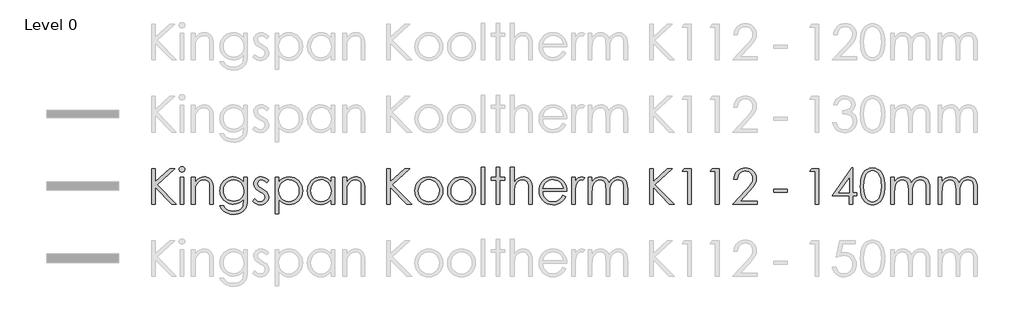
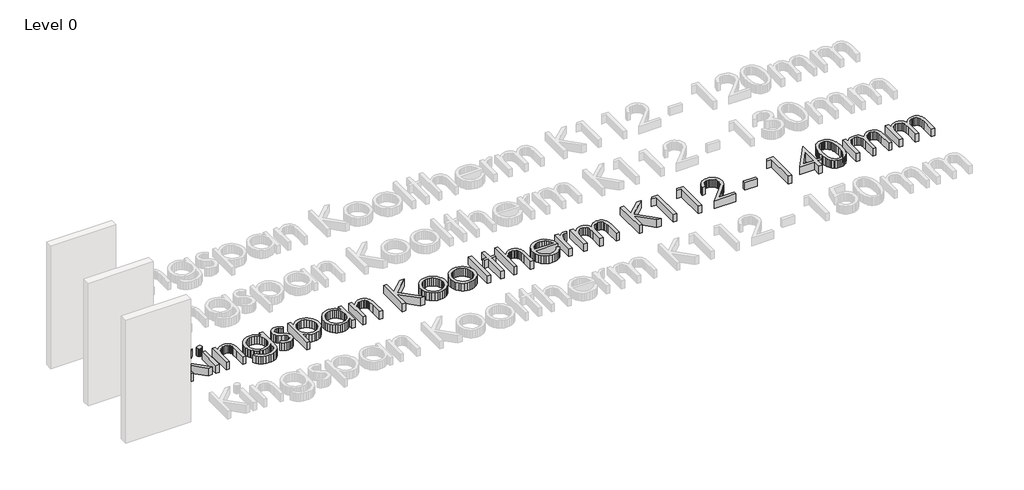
# One storey, part 2 of 14: 1 proxy.
"""IFC4 building model written with IfcOpenShell, lengths in millimetres."""

from ifc_helpers import new_model, si_unit, origin, origin_with_axes, place, context, project, spatial, polyline, outline, extrude, element, save

model = new_model("IFC4")

# Units and contexts
model_context = context("Model", 3, world=origin())
ifc_project = project(units=[si_unit("LENGTHUNIT", "METRE", prefix="MILLI")], contexts=[model_context])

# Site, building, storey
site = spatial("IfcSite", under=ifc_project)
building = spatial("IfcBuilding", under=site)
storey = spatial("IfcBuildingStorey", under=building, Name="Level 0", Elevation=0.0)

# Proxy
placement = place(None, origin())
element("IfcBuildingElementProxy", 1, Name="600mm KI_CenturyGothic", ObjectType="600mm KI_CenturyGothic", at=placement, inside=storey, context=model_context, shape_type="SweptSolid", body=[
    extrude(outline(polyline([(-3852.2663848, -8499.1034017), (-3792.944575, -8499.1034017), (-3792.944575, -8718.316027), (-3555.1938841, -8499.1034017), (-3471.6181051, -8499.1034017), (-3760.9664119, -8766.0515459), (-3441.9572002, -9092.3214999), (-3520.8984627, -9092.3214999), (-3792.944575, -8814.0960325), (-3792.944575, -9092.3214999), (-3852.2663848, -9092.3214999), (-3852.2663848, -8499.1034017)])), origin_with_axes(), (0.0, 0.0, 1.0), 150.0),
    extrude(outline(polyline([(-3348.1854852, -8469.4424967), (-3329.145347, -8472.7252792), (-3313.1176445, -8482.5736265), (-3302.226531, -8497.0178693), (-3298.5961598, -8514.088338), (-3302.226531, -8530.9270809), (-3313.1176445, -8545.2940817), (-3329.145347, -8555.142429), (-3348.1854852, -8558.4252115), (-3366.9938975, -8555.142429), (-3382.9443581, -8545.2940817), (-3393.8354717, -8530.9270809), (-3397.4658428, -8514.088338), (-3393.8354717, -8497.0178693), (-3382.9443581, -8482.5736265), (-3366.9938975, -8472.7252792), (-3348.1854852, -8469.4424967)])), origin_with_axes(), (0.0, 0.0, 1.0), 150.0),
    extrude(outline(polyline([(-3377.6919062, -8647.4079262), (-3318.3700964, -8647.4079262), (-3318.3700964, -9092.3214999), (-3377.6919062, -9092.3214999), (-3377.6919062, -8647.4079262)])), origin_with_axes(), (0.0, 0.0, 1.0), 150.0),
    extrude(outline(polyline([(-3189.8395084, -8647.4079262), (-3130.5176986, -8647.4079262), (-3130.5176986, -8726.5036726), (-3096.9946967, -8686.9944204), (-3060.0730495, -8659.303185), (-3019.7141359, -8642.9665147), (-2975.879335, -8637.5209579), (-2953.4357238, -8639.0995901), (-2932.2955704, -8643.8354865), (-2912.4588747, -8651.7286472), (-2893.9256368, -8662.7790723), (-2877.212412, -8676.5039994), (-2862.835756, -8692.4206667), (-2841.0921499, -8730.8292213), (-2833.6238199, -8755.2087086), (-2828.2892984, -8785.5551357), (-2824.0216812, -8864.1488095), (-2824.0216812, -9092.3214999), (-2883.343491, -9092.3214999), (-2883.343491, -8879.1337458), (-2883.343491, -8776.092998), (-2884.7290183, -8755.2956057), (-2889.8125035, -8737.2403023), (-2898.2849788, -8721.9270877), (-2910.1464442, -8709.355962), (-2924.7403432, -8699.5558909), (-2941.4101193, -8692.5558401), (-2980.977303, -8686.9557994), (-3005.3471351, -8689.1137461), (-3028.4038541, -8695.5875862), (-3050.1474602, -8706.3773197), (-3070.5779533, -8721.4829466), (-3088.6622225, -8739.7651482), (-3103.3671568, -8760.084606), (-3114.6927562, -8782.44132), (-3122.6390208, -8806.8352901), (-3128.5480292, -8853.9142525), (-3130.5176986, -8928.4141035), (-3130.5176986, -9092.3214999), (-3189.8395084, -9092.3214999), (-3189.8395084, -8647.4079262)])), origin_with_axes(), (0.0, 0.0, 1.0), 150.0),
    extrude(outline(polyline([(-2319.7862977, -8647.4079262), (-2260.4644879, -8647.4079262), (-2260.4644879, -8998.395301), (-2264.5196897, -9078.6496765), (-2269.588692, -9109.4499001), (-2276.6852953, -9134.0321474), (-2289.9371156, -9162.6454585), (-2307.2924139, -9187.7732271), (-2328.7511904, -9209.4154531), (-2354.3134448, -9227.5721366), (-2383.3226209, -9241.9343098), (-2415.122162, -9252.1930049), (-2449.7120682, -9258.348222), (-2487.0923395, -9260.3999611), (-2541.0458345, -9256.3833802), (-2589.206184, -9244.3336376), (-2630.260275, -9225.5059147), (-2662.8949946, -9201.1553932), (-2690.2000204, -9167.8061856), (-2715.2650299, -9121.9824048), (-2655.94322, -9121.9824048), (-2642.4355358, -9143.151524), (-2627.0933555, -9161.3951046), (-2609.9166791, -9176.7131468), (-2590.9055067, -9189.1056506), (-2569.7894914, -9198.6691682), (-2546.2982864, -9205.5002523), (-2492.1903075, -9210.9651195), (-2438.5071593, -9205.6354257), (-2415.083541, -9198.9733084), (-2393.93856, -9189.6463441), (-2359.6624492, -9165.6047903), (-2336.8567664, -9136.1176798), (-2329.3884364, -9117.4782342), (-2324.0539149, -9093.7697863), (-2319.7862977, -9031.1458835), (-2319.7862977, -9008.4367532), (-2354.757586, -9044.2190818), (-2396.6420279, -9070.6165148), (-2443.392712, -9086.8952536), (-2492.9627269, -9092.3214999), (-2522.4063889, -9090.4242447), (-2550.9521133, -9084.7324793), (-2578.5999001, -9075.2462036), (-2605.3497494, -9061.9654175), (-2630.1540674, -9045.4742634), (-2651.9652601, -9026.3568832), (-2670.7833277, -9004.6132772), (-2686.6082702, -8980.2434451), (-2699.1456025, -8953.9280817), (-2708.1008399, -8926.3478816), (-2713.4739824, -8897.5028447), (-2715.2650299, -8867.392971), (-2713.3967404, -8837.1044753), (-2707.7918722, -8807.8780563), (-2698.4504251, -8779.713714), (-2685.3723991, -8752.6114483), (-2668.9971079, -8727.4257483), (-2649.7638648, -8705.0111029), (-2627.67267, -8685.367512), (-2602.7235235, -8668.4949758), (-2575.9833294, -8654.943843), (-2548.5189922, -8645.2644624), (-2520.3305117, -8639.456834), (-2491.4178881, -8637.5209579), (-2444.5320306, -8642.4644421), (-2400.8903346, -8657.2948945), (-2359.6045177, -8683.8661218), (-2319.7862977, -8724.0319306), (-2319.7862977, -8647.4079262)]), holes=[polyline([(-2484.1571458, -8686.9557994), (-2529.0154023, -8692.9806707), (-2570.5908765, -8711.0552847), (-2606.2187212, -8739.7699758), (-2633.2340897, -8777.7150788), (-2650.2659375, -8821.9940208), (-2655.94322, -8869.7102292), (-2653.0080263, -8905.6229036), (-2644.2024452, -8938.2817613), (-2629.5264766, -8967.6868023), (-2608.9801206, -8993.8380266), (-2583.7606272, -9015.296803), (-2555.0652466, -9030.6245004), (-2522.8939786, -9039.8211189), (-2487.2468234, -9042.8866584), (-2451.3244937, -9039.845257), (-2419.1001219, -9030.7210528), (-2390.573708, -9015.5140459), (-2365.7452519, -8994.2242363), (-2345.6382095, -8967.9812872), (-2331.2760363, -8937.9148621), (-2322.6587323, -8904.024961), (-2319.7862977, -8866.3115838), (-2325.0773706, -8817.6105407), (-2340.9505892, -8774.3936754), (-2366.4983608, -8738.1672056), (-2400.8130926, -8710.4373492), (-2440.9982119, -8692.8261869), (-2484.1571458, -8686.9557994)])]), origin_with_axes(), (0.0, 0.0, 1.0), 150.0),
    extrude(outline(polyline([(-1904.5336289, -8698.6965743), (-1940.9918246, -8736.390641), (-1962.9575012, -8714.7628978), (-1984.6721416, -8699.3145098), (-2006.1357456, -8690.045477), (-2027.3483133, -8686.9557994), (-2052.181597, -8691.6289368), (-2073.2300256, -8705.6483489), (-2087.5970264, -8725.8857371), (-2092.3860267, -8749.212803), (-2088.4466878, -8770.7633042), (-2076.628671, -8791.2324183), (-2052.0657341, -8813.400855), (-2010.2006027, -8839.122421), (-1958.3326401, -8871.9888664), (-1939.8428507, -8887.8138088), (-1926.315856, -8903.2332311), (-1909.9791857, -8935.9065716), (-1904.5336289, -8972.4420092), (-1906.9474396, -8998.5884059), (-1914.1888714, -9022.6492701), (-1926.2579245, -9044.624602), (-1943.1545989, -9064.5144015), (-1963.6719892, -9081.0055557), (-1986.6031901, -9092.7849515), (-2011.9482016, -9099.852589), (-2039.7070237, -9102.2084682), (-2077.4397114, -9098.3270607), (-2113.3958344, -9086.6828383), (-2145.4512394, -9068.2027042), (-2171.4817731, -9043.8135617), (-2135.7959969, -9003.3387852), (-2114.0041146, -9024.9665283), (-2091.5749863, -9040.4149163), (-2068.5086121, -9049.6839491), (-2044.8049918, -9052.7736267), (-2013.637869, -9047.1349651), (-1987.4914724, -9030.2189802), (-1969.7644472, -9005.6560434), (-1963.8554388, -8977.0765256), (-1967.7561567, -8953.2860081), (-1979.4583106, -8932.2762005), (-2005.0253927, -8910.5712154), (-2050.2119275, -8883.7682622), (-2099.762632, -8853.1032121), (-2117.441381, -8837.9444814), (-2130.3890611, -8822.9016136), (-2146.3781427, -8790.7689666), (-2151.7078365, -8754.310771), (-2149.5305794, -8730.2643896), (-2142.9988078, -8708.3325063), (-2132.1125219, -8688.5151211), (-2116.8717217, -8670.812234), (-2098.309518, -8656.2473007), (-2077.4590218, -8645.8437769), (-2054.3202332, -8639.6016627), (-2028.8931521, -8637.5209579), (-1997.9481, -8641.3444339), (-1966.9064954, -8652.814862), (-1935.7683384, -8671.9322421), (-1904.5336289, -8698.6965743)])), origin_with_axes(), (0.0, 0.0, 1.0), 150.0),
    extrude(outline(polyline([(-1795.7769776, -8647.4079262), (-1736.4551678, -8647.4079262), (-1736.4551678, -8728.5119631), (-1700.9238754, -8688.2689124), (-1660.4490989, -8659.9211205), (-1614.9922173, -8643.1209986), (-1564.5146096, -8637.5209579), (-1520.0618732, -8641.7596094), (-1478.9305402, -8654.4755637), (-1441.1206107, -8675.668821), (-1406.6320845, -8705.3393811), (-1377.9077381, -8740.9768811), (-1357.3903478, -8780.070958), (-1345.0799137, -8822.6216116), (-1340.9764356, -8868.628842), (-1345.0412927, -8915.5291824), (-1357.235864, -8958.7508754), (-1377.5601494, -8998.293921), (-1406.014149, -9034.1583192), (-1440.2130179, -9063.9302594), (-1477.7719111, -9085.1959309), (-1518.6908288, -9097.9553339), (-1562.9697708, -9102.2084682), (-1612.6170277, -9096.743601), (-1658.0545988, -9080.3489992), (-1699.3211052, -9053.1019049), (-1736.4551678, -9015.07956), (-1736.4551678, -9250.5129928), (-1795.7769776, -9250.5129928), (-1795.7769776, -8647.4079262)]), holes=[polyline([(-1568.5311905, -8686.9557994), (-1602.5852307, -8690.2530647), (-1633.8392507, -8700.1448607), (-1662.2932503, -8716.6311872), (-1687.9472295, -8739.7120444), (-1709.1694525, -8767.6977647), (-1724.3281832, -8798.8986808), (-1733.4234216, -8833.3147926), (-1736.4551678, -8870.9461002), (-1731.048232, -8919.8016272), (-1714.8274246, -8963.4819442), (-1688.5265441, -9000.3263495), (-1652.8793888, -9028.6741414), (-1611.4390881, -9046.7487554), (-1567.7587711, -9052.7736267), (-1525.0632888, -9046.7101344), (-1485.0326535, -9028.5196576), (-1450.2544701, -8999.4187567), (-1423.3163435, -8960.6239924), (-1406.05277, -8915.9588407), (-1400.2982454, -8869.2467775), (-1405.9948385, -8822.3029886), (-1423.0846177, -8777.8695627), (-1449.8103289, -8739.5189395), (-1484.414718, -8710.8235589), (-1524.7157001, -8692.9227393), (-1568.5311905, -8686.9557994)])]), origin_with_axes(), (0.0, 0.0, 1.0), 150.0),
    extrude(outline(polyline([(-807.0801472, -8647.4079262), (-807.0801472, -9092.3214999), (-866.401957, -9092.3214999), (-866.401957, -9016.4699149), (-903.4780882, -9054.3184655), (-944.8797679, -9081.0441767), (-990.4525125, -9096.9173953), (-1040.0418379, -9102.2084682), (-1084.3159523, -9097.9553339), (-1125.2203871, -9085.1959309), (-1162.7551422, -9063.9302594), (-1196.9202178, -9034.1583192), (-1225.340424, -8998.293921), (-1245.6405713, -8958.7508754), (-1257.8206597, -8915.5291824), (-1261.8806892, -8868.628842), (-1257.7820388, -8822.6216116), (-1245.4860875, -8780.070958), (-1224.9928353, -8740.9768811), (-1196.3022822, -8705.3393811), (-1161.8475494, -8675.668821), (-1124.061758, -8654.4755637), (-1082.9449079, -8641.7596094), (-1038.4969991, -8637.5209579), (-987.7490446, -8643.1209986), (-942.0990581, -8659.9211205), (-921.2051134, -8672.6081091), (-901.6242816, -8688.2689124), (-866.401957, -8728.5119631), (-866.401957, -8647.4079262), (-807.0801472, -8647.4079262)]), holes=[polyline([(-1034.3259343, -8686.9557994), (-1078.1414247, -8692.9227393), (-1118.4424068, -8710.8235589), (-1153.0467959, -8739.5189395), (-1179.7725071, -8777.8695627), (-1196.8622863, -8822.3029886), (-1202.5588794, -8869.2467775), (-1196.8043548, -8915.9588407), (-1179.5407813, -8960.6239924), (-1152.6026548, -8999.4187567), (-1117.8244713, -9028.5196576), (-1077.6779731, -9046.7101344), (-1034.6349021, -9052.7736267), (-991.0125165, -9046.7487554), (-949.7460102, -9028.6741414), (-914.2726493, -9000.3263495), (-888.0297002, -8963.4819442), (-871.8088928, -8919.8016272), (-866.401957, -8870.9461002), (-869.4337032, -8833.3147926), (-878.5289416, -8798.8986808), (-893.6876723, -8767.6977647), (-914.9098953, -8739.7120444), (-940.5638746, -8716.6311872), (-969.0178742, -8700.1448607), (-1000.2718941, -8690.2530647), (-1034.3259343, -8686.9557994)])]), origin_with_axes(), (0.0, 0.0, 1.0), 150.0),
    extrude(outline(polyline([(-668.662591, -8647.4079262), (-609.3407811, -8647.4079262), (-609.3407811, -8726.5036726), (-575.8177792, -8686.9944204), (-538.896132, -8659.303185), (-498.5372184, -8642.9665147), (-454.7024175, -8637.5209579), (-432.2588064, -8639.0995901), (-411.1186529, -8643.8354865), (-391.2819572, -8651.7286472), (-372.7487193, -8662.7790723), (-356.0354946, -8676.5039994), (-341.6588385, -8692.4206667), (-319.9152324, -8730.8292213), (-312.4469024, -8755.2087086), (-307.1123809, -8785.5551357), (-302.8447637, -8864.1488095), (-302.8447637, -9092.3214999), (-362.1665735, -9092.3214999), (-362.1665735, -8879.1337458), (-362.1665735, -8776.092998), (-363.5521008, -8755.2956057), (-368.635586, -8737.2403023), (-377.1080613, -8721.9270877), (-388.9695267, -8709.355962), (-403.5634257, -8699.5558909), (-420.2332018, -8692.5558401), (-459.8003855, -8686.9557994), (-484.1702176, -8689.1137461), (-507.2269366, -8695.5875862), (-528.9705427, -8706.3773197), (-549.4010358, -8721.4829466), (-567.485305, -8739.7651482), (-582.1902393, -8760.084606), (-593.5158387, -8782.44132), (-601.4621033, -8806.8352901), (-607.3711117, -8853.9142525), (-609.3407811, -8928.4141035), (-609.3407811, -9092.3214999), (-668.662591, -9092.3214999), (-668.662591, -8647.4079262)])), origin_with_axes(), (0.0, 0.0, 1.0), 150.0),
    extrude(outline(polyline([(62.9730635, -8499.1034017), (122.2948734, -8499.1034017), (122.2948734, -8718.316027), (360.0455643, -8499.1034017), (443.6213432, -8499.1034017), (154.2730365, -8766.0515459), (473.2822481, -9092.3214999), (394.3409856, -9092.3214999), (122.2948734, -8814.0960325), (122.2948734, -9092.3214999), (62.9730635, -9092.3214999), (62.9730635, -8499.1034017)])), origin_with_axes(), (0.0, 0.0, 1.0), 150.0),
    extrude(outline(polyline([(760.1588128, -8637.5209579), (809.4681362, -8642.1458191), (854.3553585, -8656.0204025), (894.8204798, -8679.1447083), (930.8635, -8711.5187363), (957.7630055, -8746.7507161), (976.9769381, -8785.091684), (988.5052976, -8826.54164), (992.3480841, -8871.1005841), (988.283227, -8915.9153921), (976.0886558, -8957.8239721), (955.7643703, -8996.8263241), (927.3103707, -9032.9224481), (892.4742558, -9063.2350819), (853.0036246, -9084.8869632), (808.8984769, -9097.8780919), (760.1588128, -9102.2084682), (711.2839754, -9097.8780919), (667.0822753, -9084.8869632), (627.5537126, -9063.2350819), (592.6982872, -9032.9224481), (564.2442876, -8996.8263241), (543.9200022, -8957.8239721), (531.7254309, -8915.9153921), (527.6605738, -8871.1005841), (531.5033603, -8826.7347449), (543.0317198, -8785.4006518), (562.2456524, -8747.0983049), (589.145158, -8711.8277041), (625.2074886, -8679.3185026), (665.7305413, -8656.0976445), (710.7143161, -8642.1651295), (760.1588128, -8637.5209579)]), holes=[polyline([(760.004329, -8686.9557994), (725.7282181, -8690.3303067), (693.9624704, -8700.4538284), (664.7070856, -8717.3263647), (637.962064, -8740.9479154), (615.6584538, -8769.3584664), (599.7273037, -8800.5980035), (590.1686137, -8834.6665266), (586.9823836, -8871.5640357), (592.7948396, -8919.2995546), (610.2322075, -8963.6364281), (637.5758543, -9001.4270471), (673.1071466, -9029.5238028), (714.6439998, -9046.9611707), (760.004329, -9052.7736267), (805.3646581, -9046.9611707), (846.9015113, -9029.5238028), (882.4328037, -9001.4270471), (909.7764504, -8963.6364281), (927.2138183, -8919.2995546), (933.0262743, -8871.5640357), (929.8255614, -8834.6665266), (920.2234227, -8800.5980035), (904.2198583, -8769.3584664), (881.8148681, -8740.9479154), (854.9974321, -8717.3263647), (825.7565303, -8700.4538284), (794.0921625, -8690.3303067), (760.004329, -8686.9557994)])]), origin_with_axes(), (0.0, 0.0, 1.0), 150.0),
    extrude(outline(polyline([(1303.9420695, -8637.5209579), (1353.2513929, -8642.1458191), (1398.1386152, -8656.0204025), (1438.6037365, -8679.1447083), (1474.6467567, -8711.5187363), (1501.5462622, -8746.7507161), (1520.7601948, -8785.091684), (1532.2885543, -8826.54164), (1536.1313408, -8871.1005841), (1532.0664837, -8915.9153921), (1519.8719125, -8957.8239721), (1499.547627, -8996.8263241), (1471.0936274, -9032.9224481), (1436.2575126, -9063.2350819), (1396.7868813, -9084.8869632), (1352.6817336, -9097.8780919), (1303.9420695, -9102.2084682), (1255.0672321, -9097.8780919), (1210.865532, -9084.8869632), (1171.3369693, -9063.2350819), (1136.4815439, -9032.9224481), (1108.0275443, -8996.8263241), (1087.7032589, -8957.8239721), (1075.5086876, -8915.9153921), (1071.4438305, -8871.1005841), (1075.286617, -8826.7347449), (1086.8149766, -8785.4006518), (1106.0289091, -8747.0983049), (1132.9284147, -8711.8277041), (1168.9907453, -8679.3185026), (1209.5137981, -8656.0976445), (1254.4975728, -8642.1651295), (1303.9420695, -8637.5209579)]), holes=[polyline([(1303.7875857, -8686.9557994), (1269.5114748, -8690.3303067), (1237.7457271, -8700.4538284), (1208.4903423, -8717.3263647), (1181.7453207, -8740.9479154), (1159.4417105, -8769.3584664), (1143.5105604, -8800.5980035), (1133.9518704, -8834.6665266), (1130.7656404, -8871.5640357), (1136.5780963, -8919.2995546), (1154.0154643, -8963.6364281), (1181.359111, -9001.4270471), (1216.8904033, -9029.5238028), (1258.4272565, -9046.9611707), (1303.7875857, -9052.7736267), (1349.1479149, -9046.9611707), (1390.684768, -9029.5238028), (1426.2160604, -9001.4270471), (1453.5597071, -8963.6364281), (1470.997075, -8919.2995546), (1476.809531, -8871.5640357), (1473.6088181, -8834.6665266), (1464.0066795, -8800.5980035), (1448.003115, -8769.3584664), (1425.5981249, -8740.9479154), (1398.7806889, -8717.3263647), (1369.539787, -8700.4538284), (1337.8754193, -8690.3303067), (1303.7875857, -8686.9557994)])]), origin_with_axes(), (0.0, 0.0, 1.0), 150.0),
    extrude(outline(polyline([(1635.0010238, -8479.3294651), (1694.3228337, -8479.3294651), (1694.3228337, -9092.3214999), (1635.0010238, -9092.3214999), (1635.0010238, -8479.3294651)])), origin_with_axes(), (0.0, 0.0, 1.0), 150.0),
    extrude(outline(polyline([(1882.1752314, -8479.3294651), (1941.4970413, -8479.3294651), (1941.4970413, -8647.4079262), (2020.5927877, -8647.4079262), (2020.5927877, -8696.8427677), (1941.4970413, -8696.8427677), (1941.4970413, -9092.3214999), (1882.1752314, -9092.3214999), (1882.1752314, -8696.8427677), (1803.079485, -8696.8427677), (1803.079485, -8647.4079262), (1882.1752314, -8647.4079262), (1882.1752314, -8479.3294651)])), origin_with_axes(), (0.0, 0.0, 1.0), 150.0),
    extrude(outline(polyline([(2119.4624707, -8479.3294651), (2178.7842806, -8479.3294651), (2178.7842806, -8728.0485114), (2212.5583188, -8688.3461544), (2249.6151394, -8660.0756044), (2289.9161216, -8643.1596195), (2333.4226442, -8637.5209579), (2355.8662553, -8639.0995901), (2377.0064088, -8643.8354865), (2396.8431044, -8651.7286472), (2415.3763424, -8662.7790723), (2432.0895671, -8676.4895166), (2446.4662232, -8692.3627352), (2468.2098293, -8730.5974955), (2475.6781593, -8754.9045684), (2481.0126808, -8785.2654784), (2485.280298, -8864.1488095), (2485.280298, -9092.3214999), (2425.9584882, -9092.3214999), (2425.9584882, -8879.1337458), (2424.5681332, -8814.752589), (2420.3970685, -8776.092998), (2406.879729, -8737.2403023), (2397.1665551, -8721.9270877), (2385.4837117, -8709.355962), (2371.840854, -8699.5558909), (2356.2476374, -8692.5558401), (2319.2101273, -8686.9557994), (2296.3416854, -8689.1137461), (2274.6994594, -8695.5875862), (2254.2834492, -8706.3773197), (2235.0936547, -8721.4829466), (2218.1052556, -8739.7651482), (2204.2934312, -8760.084606), (2193.6581816, -8782.44132), (2186.1995068, -8806.8352901), (2180.6380871, -8853.6825267), (2178.7842806, -8928.4141035), (2178.7842806, -9092.3214999), (2119.4624707, -9092.3214999), (2119.4624707, -8479.3294651)])), origin_with_axes(), (0.0, 0.0, 1.0), 150.0),
    extrude(outline(polyline([(2991.0605203, -8944.0169753), (3038.950523, -8969.1978477), (3013.3255094, -9011.0822896), (2984.0315038, -9044.0452875), (2950.952643, -9069.1296074), (2913.9730643, -9087.3780157), (2872.4941426, -9098.5008551), (2825.9172528, -9102.2084682), (2774.4258447, -9097.7767119), (2728.8627554, -9084.481443), (2689.227985, -9062.3226615), (2655.5215335, -9031.3003674), (2628.6220279, -8994.6973431), (2609.4080954, -8955.7963712), (2597.8797358, -8914.5974515), (2594.0369493, -8871.1005841), (2597.3197318, -8830.2202874), (2607.1680791, -8791.618628), (2623.5819913, -8755.2956057), (2646.5614684, -8721.2512207), (2682.7493173, -8684.6192308), (2724.5758277, -8658.4535236), (2772.0409998, -8642.7540993), (2825.1448334, -8637.5209579), (2879.7935059, -8642.8892727), (2928.6490329, -8658.9942172), (2971.7114143, -8685.8357913), (3008.9806503, -8723.4139951), (3030.4539096, -8755.585263), (3045.9022976, -8791.541386), (3055.3258143, -8831.2823641), (3058.7244596, -8874.8081972), (2653.3587591, -8874.8081972), (2657.095338, -8912.0629503), (2666.6057518, -8945.8128504), (2681.8900007, -8976.0578975), (2702.9480845, -9002.7980916), (2728.3124066, -9024.6623882), (2756.5153699, -9040.2797429), (2787.5569744, -9049.6501557), (2821.4372203, -9052.7736267), (2854.9602222, -9049.761191), (2887.5563208, -9040.7238841), (2917.2944677, -9026.6851615), (2942.2436143, -9008.668479), (2965.725164, -8982.5027719), (2991.0605203, -8944.0169753)]), holes=[polyline([(2999.4026498, -8825.3733557), (2984.9777175, -8782.8516678), (2965.1844704, -8749.8307385), (2939.0766947, -8724.3022774), (2905.7081767, -8704.257994), (2867.7630738, -8691.2813481), (2827.9255433, -8686.9557994), (2795.503239, -8689.6689226), (2765.4368139, -8697.808292), (2737.726268, -8711.3739077), (2712.3716012, -8730.3657696), (2695.8321708, -8748.179692), (2681.4362043, -8769.9522638), (2669.1837016, -8795.683485), (2659.0746627, -8825.3733557), (2999.4026498, -8825.3733557)])]), origin_with_axes(), (0.0, 0.0, 1.0), 150.0),
    extrude(outline(polyline([(3137.820206, -8647.4079262), (3197.1420159, -8647.4079262), (3197.1420159, -8711.8277041), (3222.6897875, -8678.7874643), (3249.589293, -8655.6728138), (3277.7632906, -8642.0589219), (3307.1345382, -8637.5209579), (3330.4616041, -8641.305813), (3355.3335087, -8652.6603781), (3325.8270877, -8694.6799934), (3297.2475699, -8686.9557994), (3270.8308265, -8692.9034288), (3245.3409863, -8710.7463169), (3223.2884125, -8741.1023993), (3207.183468, -8784.5896114), (3199.6523789, -8842.7141712), (3197.1420159, -8940.1548783), (3197.1420159, -9092.3214999), (3137.820206, -9092.3214999), (3137.820206, -8647.4079262)])), origin_with_axes(), (0.0, 0.0, 1.0), 150.0),
    extrude(outline(polyline([(3414.6553185, -8647.4079262), (3473.9771284, -8647.4079262), (3473.9771284, -8723.5684789), (3503.5607913, -8687.0716623), (3533.9168737, -8661.9294109), (3577.3268439, -8643.6230712), (3622.8995884, -8637.5209579), (3653.7384329, -8640.668567), (3682.9165757, -8650.1113941), (3708.6767627, -8664.7873627), (3729.2617397, -8683.634396), (3746.0425511, -8709.0663047), (3760.3902414, -8743.4968994), (3775.16759, -8719.0981017), (3791.6925376, -8697.808292), (3809.965084, -8679.6274704), (3829.9852293, -8664.5556369), (3851.2798666, -8652.7279648), (3873.375889, -8644.2796277), (3896.2732965, -8639.2106253), (3919.9720892, -8637.5209579), (3962.3006723, -8643.3334139), (3981.4952943, -8650.5989839), (3999.3768034, -8660.7707818), (4015.4914031, -8673.53984), (4029.385297, -8688.5971907), (4050.5109676, -8725.5767694), (4057.8103309, -8748.9521114), (4063.0241619, -8777.5219739), (4067.1952266, -8850.2452603), (4067.1952266, -9092.3214999), (4007.8734168, -9092.3214999), (4007.8734168, -8846.6921311), (4005.4209852, -8785.5744462), (3998.0636904, -8747.1272706), (3984.7587663, -8722.6608861), (3964.4634466, -8703.4855746), (3938.3942919, -8691.0882432), (3907.7678627, -8686.9557994), (3888.1194443, -8688.5054659), (3869.3399976, -8693.1544651), (3834.3880198, -8711.7504621), (3805.6540182, -8740.6968791), (3785.8800816, -8777.9468046), (3779.1889985, -8802.1042213), (3774.4096535, -8833.1747916), (3770.5861775, -8916.0553931), (3770.5861775, -9092.3214999), (3711.2643677, -9092.3214999), (3711.2643677, -8861.9860352), (3708.850557, -8793.530366), (3701.6091252, -8751.2983353), (3688.3621325, -8725.0553863), (3667.9316394, -8704.5669617), (3641.6114484, -8691.35859), (3610.6953619, -8686.9557994), (3573.7544042, -8692.9999812), (3539.2465676, -8711.1325266), (3510.2808401, -8739.499629), (3489.9662099, -8776.2474819), (3477.9743988, -8828.0768236), (3473.9771284, -8901.6883923), (3473.9771284, -9092.3214999), (3414.6553185, -9092.3214999), (3414.6553185, -8647.4079262)])), origin_with_axes(), (0.0, 0.0, 1.0), 150.0),
    extrude(outline(polyline([(4433.0130538, -8499.1034017), (4492.3348637, -8499.1034017), (4492.3348637, -8718.316027), (4730.0855546, -8499.1034017), (4813.6613335, -8499.1034017), (4524.3130268, -8766.0515459), (4843.3222385, -9092.3214999), (4764.3809759, -9092.3214999), (4492.3348637, -8814.0960325), (4492.3348637, -9092.3214999), (4433.0130538, -9092.3214999), (4433.0130538, -8499.1034017)])), origin_with_axes(), (0.0, 0.0, 1.0), 150.0),
    extrude(outline(polyline([(5010.6282802, -8499.1034017), (5125.1008351, -8499.1034017), (5125.1008351, -9092.3214999), (5065.7790253, -9092.3214999), (5065.7790253, -8548.5382432), (4976.7963106, -8548.5382432), (5010.6282802, -8499.1034017)])), origin_with_axes(), (0.0, 0.0, 1.0), 150.0),
    extrude(outline(polyline([(5475.3157905, -8499.1034017), (5589.7883454, -8499.1034017), (5589.7883454, -9092.3214999), (5530.4665356, -9092.3214999), (5530.4665356, -8548.5382432), (5441.4838208, -8548.5382432), (5475.3157905, -8499.1034017)])), origin_with_axes(), (0.0, 0.0, 1.0), 150.0),
    extrude(outline(polyline([(5896.2843628, -8677.0688311), (5836.962553, -8677.0688311), (5841.4474131, -8637.8106152), (5852.5847353, -8602.2213914), (5870.3745196, -8570.3011597), (5894.816766, -8542.0499202), (5924.2121517, -8518.9352697), (5956.8613542, -8502.4248051), (5992.7643733, -8492.5185263), (6031.9212092, -8489.2164334), (6070.3925229, -8492.5136987), (6105.0113948, -8502.4054946), (6135.777825, -8518.8918211), (6162.6918135, -8541.9726783), (6184.5561101, -8569.533568), (6200.1734648, -8599.459992), (6209.5438776, -8631.7519505), (6212.6673485, -8666.4094434), (6206.5845458, -8715.2070389), (6188.3361375, -8760.8763359), (6152.5538088, -8812.763609), (6093.869245, -8880.215133), (5941.084688, -9042.8866584), (6222.5543169, -9042.8866584), (6222.5543169, -9092.3214999), (5817.1886164, -9092.3214999), (6043.1985325, -8851.6356152), (6099.9327373, -8786.1151397), (6132.6446988, -8740.0210121), (6148.1703288, -8702.6552237), (6153.3455387, -8663.3197658), (6151.0958672, -8638.7133804), (6144.3468527, -8615.8739043), (6133.0984952, -8594.8013375), (6117.3507947, -8575.4956802), (6098.3396223, -8559.3762529), (6077.3008489, -8547.8623762), (6054.2344746, -8540.9540502), (6029.1404994, -8538.6512749), (6002.8058255, -8540.9250845), (5978.7980651, -8547.7465133), (5957.1172181, -8559.1155613), (5937.7632845, -8575.0322286), (5921.5279943, -8595.0523738), (5909.2030773, -8618.731856), (5900.7885334, -8646.0706751), (5896.2843628, -8677.0688311)])), origin_with_axes(), (0.0, 0.0, 1.0), 150.0),
    extrude(outline(polyline([(6499.3894294, -8845.1472923), (6726.7897004, -8845.1472923), (6726.7897004, -8894.5821338), (6499.3894294, -8894.5821338), (6499.3894294, -8845.1472923)])), origin_with_axes(), (0.0, 0.0, 1.0), 150.0),
    extrude(outline(polyline([(7136.3264656, -8499.1034017), (7250.7990205, -8499.1034017), (7250.7990205, -9092.3214999), (7191.4772106, -9092.3214999), (7191.4772106, -8548.5382432), (7102.4944959, -8548.5382432), (7136.3264656, -8499.1034017)])), origin_with_axes(), (0.0, 0.0, 1.0), 150.0),
    extrude(outline(polyline([(7802.3064712, -8489.2164334), (7814.3562138, -8489.2164334), (7814.3562138, -8904.4691021), (7883.5649919, -8904.4691021), (7883.5649919, -8953.9039436), (7814.3562138, -8953.9039436), (7814.3562138, -9092.3214999), (7755.034404, -9092.3214999), (7755.034404, -8953.9039436), (7478.1992914, -8953.9039436), (7802.3064712, -8489.2164334)]), holes=[polyline([(7755.034404, -8904.4691021), (7755.034404, -8657.2948945), (7582.784878, -8904.4691021), (7755.034404, -8904.4691021)])]), origin_with_axes(), (0.0, 0.0, 1.0), 150.0),
    extrude(outline(polyline([(7942.8868017, -8795.8669347), (7944.4654339, -8741.4355052), (7949.2013303, -8693.5406748), (7957.094491, -8652.1824436), (7968.1449161, -8617.3608116), (7982.0726034, -8587.7192172), (7998.5975509, -8561.9010988), (8017.7197586, -8539.9064564), (8039.4392266, -8521.73529), (8063.1331916, -8507.5082902), (8088.1788906, -8497.3461475), (8114.5763236, -8491.2488619), (8142.3254905, -8489.2164334), (8170.5284538, -8491.2633448), (8197.3603726, -8497.404079), (8222.8212471, -8507.638636), (8246.9110771, -8521.9670159), (8269.0939967, -8540.3843909), (8288.8341399, -8562.8859335), (8306.1315069, -8589.4716437), (8320.9860974, -8620.1415214), (8332.9151495, -8655.6583309), (8341.435901, -8696.7848363), (8346.5483519, -8743.5210375), (8348.2525022, -8795.8669347), (8346.57249, -8848.0535203), (8341.5324534, -8894.6207548), (8333.1323925, -8935.5686382), (8321.3723071, -8970.8971704), (8306.6625452, -9001.4222195), (8289.4134545, -9027.9596535), (8269.625035, -9050.5094723), (8247.2972868, -9069.071676), (8223.03849, -9083.5690226), (8197.4569251, -9093.9242701), (8170.5525919, -9100.1374187), (8142.3254905, -9102.2084682), (8114.6004617, -9100.2001778), (8088.2754431, -9094.1753064), (8063.3504346, -9084.1338543), (8039.8254363, -9070.0758212), (8018.2507969, -9052.0398282), (7999.1768654, -9030.0644964), (7982.6036417, -9004.1498255), (7968.5311258, -8974.2958158), (7957.311734, -8939.2762513), (7949.2978827, -8897.8649163), (7944.489572, -8850.0618107), (7942.8868017, -8795.8669347)]), holes=[polyline([(8002.2086116, -8795.7124508), (8006.5920916, -8884.038609), (8012.0714418, -8919.0195525), (8019.7425319, -8947.8790723), (8029.5570859, -8972.1185586), (8041.4668275, -8993.2394015), (8055.4717567, -9011.2416011), (8071.5718736, -9026.1251574), (8106.8714401, -9046.1115094), (8125.2743323, -9051.1080973), (8144.179297, -9052.7736267), (8163.171159, -9051.1418907), (8181.525775, -9046.2466828), (8216.3232689, -9026.665851), (8232.0806246, -9011.9898824), (8245.8296899, -8994.0697524), (8257.5704648, -8972.9054608), (8267.3029492, -8948.4970078), (8276.7650868, -8915.1381451), (8283.5237566, -8878.5544313), (8288.9306924, -8795.7124508), (8284.1030711, -8714.1063413), (8278.0685446, -8679.4150551), (8269.6202074, -8648.7982811), (8259.0380616, -8622.135329), (8246.6021093, -8599.3055082), (8232.3123504, -8580.3088186), (8216.168785, -8565.1452603), (8181.1009443, -8545.2747712), (8162.8718465, -8540.307149), (8144.179297, -8538.6512749), (8125.163297, -8540.307149), (8106.7362667, -8545.2747712), (8071.6491155, -8565.1452603), (8055.7034825, -8579.9564022), (8041.7757953, -8597.8958428), (8029.8660536, -8618.9635819), (8019.9742577, -8643.1596195), (8012.2017875, -8672.0143117), (8006.6500231, -8707.0580143), (8002.2086116, -8795.7124508)])]), origin_with_axes(), (0.0, 0.0, 1.0), 150.0),
    extrude(outline(polyline([(8447.1221852, -8647.4079262), (8506.4439951, -8647.4079262), (8506.4439951, -8723.5684789), (8536.027658, -8687.0716623), (8566.3837404, -8661.9294109), (8609.7937106, -8643.6230712), (8655.3664551, -8637.5209579), (8686.2052996, -8640.668567), (8715.3834424, -8650.1113941), (8741.1436294, -8664.7873627), (8761.7286063, -8683.634396), (8778.5094178, -8709.0663047), (8792.8571081, -8743.4968994), (8807.6344567, -8719.0981017), (8824.1594042, -8697.808292), (8842.4319506, -8679.6274704), (8862.4520959, -8664.5556369), (8883.7467332, -8652.7279648), (8905.8427557, -8644.2796277), (8928.7401632, -8639.2106253), (8952.4389559, -8637.5209579), (8994.7675389, -8643.3334139), (9013.962161, -8650.5989839), (9031.8436701, -8660.7707818), (9047.9582698, -8673.53984), (9061.8521637, -8688.5971907), (9082.9778343, -8725.5767694), (9090.2771976, -8748.9521114), (9095.4910285, -8777.5219739), (9099.6620933, -8850.2452603), (9099.6620933, -9092.3214999), (9040.3402835, -9092.3214999), (9040.3402835, -8846.6921311), (9037.8878519, -8785.5744462), (9030.5305571, -8747.1272706), (9017.225633, -8722.6608861), (8996.9303133, -8703.4855746), (8970.8611585, -8691.0882432), (8940.2347294, -8686.9557994), (8920.5863109, -8688.5054659), (8901.8068643, -8693.1544651), (8866.8548865, -8711.7504621), (8838.1208849, -8740.6968791), (8818.3469483, -8777.9468046), (8811.6558652, -8802.1042213), (8806.8765202, -8833.1747916), (8803.0530442, -8916.0553931), (8803.0530442, -9092.3214999), (8743.7312343, -9092.3214999), (8743.7312343, -8861.9860352), (8741.3174237, -8793.530366), (8734.0759919, -8751.2983353), (8720.8289992, -8725.0553863), (8700.3985061, -8704.5669617), (8674.0783151, -8691.35859), (8643.1622286, -8686.9557994), (8606.2212709, -8692.9999812), (8571.7134342, -8711.1325266), (8542.7477068, -8739.499629), (8522.4330766, -8776.2474819), (8510.4412654, -8828.0768236), (8506.4439951, -8901.6883923), (8506.4439951, -9092.3214999), (8447.1221852, -9092.3214999), (8447.1221852, -8647.4079262)])), origin_with_axes(), (0.0, 0.0, 1.0), 150.0),
    extrude(outline(polyline([(9238.0796495, -8647.4079262), (9297.4014594, -8647.4079262), (9297.4014594, -8723.5684789), (9326.9851223, -8687.0716623), (9357.3412047, -8661.9294109), (9400.7511749, -8643.6230712), (9446.3239194, -8637.5209579), (9477.1627639, -8640.668567), (9506.3409067, -8650.1113941), (9532.1010937, -8664.7873627), (9552.6860706, -8683.634396), (9569.4668821, -8709.0663047), (9583.8145724, -8743.4968994), (9598.591921, -8719.0981017), (9615.1168685, -8697.808292), (9633.389415, -8679.6274704), (9653.4095602, -8664.5556369), (9674.7041975, -8652.7279648), (9696.80022, -8644.2796277), (9719.6976275, -8639.2106253), (9743.3964202, -8637.5209579), (9785.7250032, -8643.3334139), (9804.9196253, -8650.5989839), (9822.8011344, -8660.7707818), (9838.9157341, -8673.53984), (9852.809628, -8688.5971907), (9873.9352986, -8725.5767694), (9881.2346619, -8748.9521114), (9886.4484928, -8777.5219739), (9890.6195576, -8850.2452603), (9890.6195576, -9092.3214999), (9831.2977478, -9092.3214999), (9831.2977478, -8846.6921311), (9828.8453162, -8785.5744462), (9821.4880214, -8747.1272706), (9808.1830973, -8722.6608861), (9787.8877776, -8703.4855746), (9761.8186229, -8691.0882432), (9731.1921937, -8686.9557994), (9711.5437752, -8688.5054659), (9692.7643286, -8693.1544651), (9657.8123508, -8711.7504621), (9629.0783492, -8740.6968791), (9609.3044126, -8777.9468046), (9602.6133295, -8802.1042213), (9597.8339845, -8833.1747916), (9594.0105085, -8916.0553931), (9594.0105085, -9092.3214999), (9534.6886987, -9092.3214999), (9534.6886987, -8861.9860352), (9532.274888, -8793.530366), (9525.0334562, -8751.2983353), (9511.7864635, -8725.0553863), (9491.3559704, -8704.5669617), (9465.0357794, -8691.35859), (9434.1196929, -8686.9557994), (9397.1787352, -8692.9999812), (9362.6708986, -8711.1325266), (9333.7051711, -8739.499629), (9313.3905409, -8776.2474819), (9301.3987298, -8828.0768236), (9297.4014594, -8901.6883923), (9297.4014594, -9092.3214999), (9238.0796495, -9092.3214999), (9238.0796495, -8647.4079262)])), origin_with_axes(), (0.0, 0.0, 1.0), 150.0),
])

save(model, "model.ifc")
